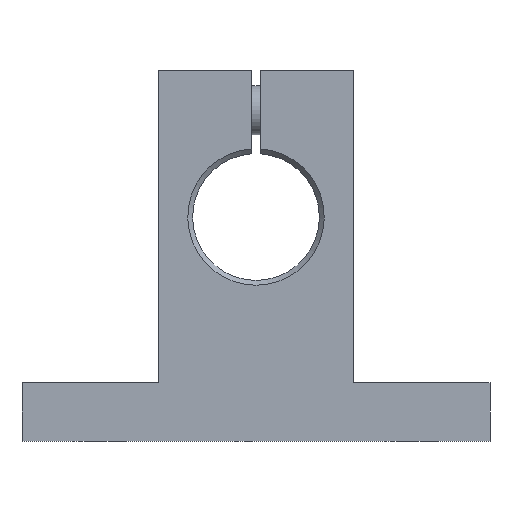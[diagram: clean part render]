
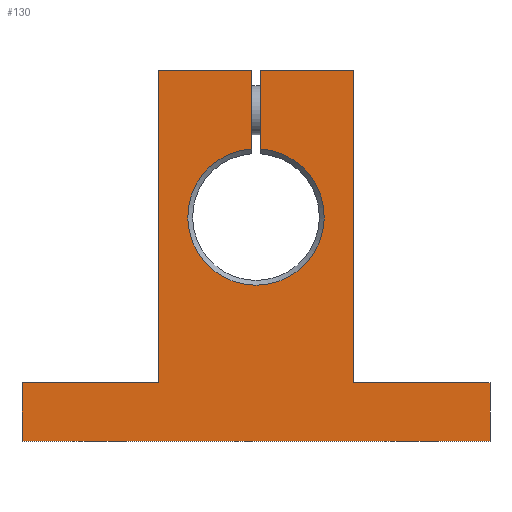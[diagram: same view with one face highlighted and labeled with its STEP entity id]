
A CAD part, front view. The second image highlights one B-rep face of the part: STEP entity #130.
In plain terms, the highlighted planar face has unit normal (0, -1, 0).
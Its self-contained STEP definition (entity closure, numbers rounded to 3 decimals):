
#130 = ADVANCED_FACE( '', ( #277 ), #278, .T. );
#277 = FACE_OUTER_BOUND( '', #421, .T. );
#278 = PLANE( '', #422 );
#421 = EDGE_LOOP( '', ( #707, #708, #709, #710, #711, #712, #713, #714, #715, #716, #717, #718 ) );
#422 = AXIS2_PLACEMENT_3D( '', #719, #720, #721 );
#707 = ORIENTED_EDGE( '', *, *, #774, .F. );
#708 = ORIENTED_EDGE( '', *, *, #799, .T. );
#709 = ORIENTED_EDGE( '', *, *, #855, .F. );
#710 = ORIENTED_EDGE( '', *, *, #805, .F. );
#711 = ORIENTED_EDGE( '', *, *, #758, .F. );
#712 = ORIENTED_EDGE( '', *, *, #782, .F. );
#713 = ORIENTED_EDGE( '', *, *, #831, .T. );
#714 = ORIENTED_EDGE( '', *, *, #793, .F. );
#715 = ORIENTED_EDGE( '', *, *, #847, .T. );
#716 = ORIENTED_EDGE( '', *, *, #747, .F. );
#717 = ORIENTED_EDGE( '', *, *, #818, .F. );
#718 = ORIENTED_EDGE( '', *, *, #841, .F. );
#719 = CARTESIAN_POINT( '', ( 0., -7., 0. ) );
#720 = DIRECTION( '', ( 0., -1., 0. ) );
#721 = DIRECTION( '', ( 1., 0., 0. ) );
#747 = EDGE_CURVE( '', #865, #866, #867, .T. );
#758 = EDGE_CURVE( '', #885, #886, #887, .T. );
#774 = EDGE_CURVE( '', #913, #915, #916, .T. );
#782 = EDGE_CURVE( '', #927, #885, #928, .T. );
#793 = EDGE_CURVE( '', #943, #944, #945, .T. );
#799 = EDGE_CURVE( '', #913, #952, #955, .F. );
#805 = EDGE_CURVE( '', #886, #962, #963, .T. );
#818 = EDGE_CURVE( '', #982, #865, #983, .T. );
#831 = EDGE_CURVE( '', #927, #944, #1001, .T. );
#841 = EDGE_CURVE( '', #915, #982, #1012, .T. );
#847 = EDGE_CURVE( '', #943, #866, #1019, .T. );
#855 = EDGE_CURVE( '', #962, #952, #1029, .T. );
#865 = VERTEX_POINT( '', #1039 );
#866 = VERTEX_POINT( '', #1040 );
#867 = LINE( '', #1041, #1042 );
#885 = VERTEX_POINT( '', #1067 );
#886 = VERTEX_POINT( '', #1068 );
#887 = LINE( '', #1069, #1070 );
#913 = VERTEX_POINT( '', #1104 );
#915 = VERTEX_POINT( '', #1109 );
#916 = LINE( '', #1110, #1111 );
#927 = VERTEX_POINT( '', #1126 );
#928 = LINE( '', #1127, #1128 );
#943 = VERTEX_POINT( '', #1145 );
#944 = VERTEX_POINT( '', #1146 );
#945 = LINE( '', #1147, #1148 );
#952 = VERTEX_POINT( '', #1158 );
#955 = CIRCLE( '', #1164, 7. );
#962 = VERTEX_POINT( '', #1172 );
#963 = LINE( '', #1173, #1174 );
#982 = VERTEX_POINT( '', #1201 );
#983 = LINE( '', #1202, #1203 );
#1001 = LINE( '', #1229, #1230 );
#1012 = LINE( '', #1244, #1245 );
#1019 = LINE( '', #1253, #1254 );
#1029 = LINE( '', #1266, #1267 );
#1039 = CARTESIAN_POINT( '', ( 10., -7., -17. ) );
#1040 = CARTESIAN_POINT( '', ( 24., -7., -17. ) );
#1041 = CARTESIAN_POINT( '', ( 21., -7., -17. ) );
#1042 = VECTOR( '', #1277, 1000. );
#1067 = CARTESIAN_POINT( '', ( -10., -7., -17. ) );
#1068 = CARTESIAN_POINT( '', ( -10., -7., 15. ) );
#1069 = CARTESIAN_POINT( '', ( -10., -7., 14.5 ) );
#1070 = VECTOR( '', #1288, 1000. );
#1104 = CARTESIAN_POINT( '', ( 0.42, -7., 6.987 ) );
#1109 = CARTESIAN_POINT( '', ( 0.42, -7., 15. ) );
#1110 = CARTESIAN_POINT( '', ( 0.42, -7., 14.5 ) );
#1111 = VECTOR( '', #1309, 1000. );
#1126 = CARTESIAN_POINT( '', ( -24., -7., -17. ) );
#1127 = CARTESIAN_POINT( '', ( -10., -7., -17. ) );
#1128 = VECTOR( '', #1317, 1000. );
#1145 = CARTESIAN_POINT( '', ( 24., -7., -23. ) );
#1146 = CARTESIAN_POINT( '', ( -24., -7., -23. ) );
#1147 = CARTESIAN_POINT( '', ( -21., -7., -23. ) );
#1148 = VECTOR( '', #1332, 1000. );
#1158 = CARTESIAN_POINT( '', ( -0.42, -7., 6.987 ) );
#1164 = AXIS2_PLACEMENT_3D( '', #1336, #1337, #1338 );
#1172 = CARTESIAN_POINT( '', ( -0.42, -7., 15. ) );
#1173 = CARTESIAN_POINT( '', ( -0.42, -7., 15. ) );
#1174 = VECTOR( '', #1346, 1000. );
#1201 = CARTESIAN_POINT( '', ( 10., -7., 15. ) );
#1202 = CARTESIAN_POINT( '', ( 10., -7., -17. ) );
#1203 = VECTOR( '', #1358, 1000. );
#1229 = CARTESIAN_POINT( '', ( -24., -7., -17. ) );
#1230 = VECTOR( '', #1370, 1000. );
#1244 = CARTESIAN_POINT( '', ( 10., -7., 15. ) );
#1245 = VECTOR( '', #1377, 1000. );
#1253 = CARTESIAN_POINT( '', ( 24., -7., -23. ) );
#1254 = VECTOR( '', #1382, 1000. );
#1266 = CARTESIAN_POINT( '', ( -0.42, -7., 6.486 ) );
#1267 = VECTOR( '', #1391, 1000. );
#1277 = DIRECTION( '', ( 1., 0., 0. ) );
#1288 = DIRECTION( '', ( 0., 0., 1. ) );
#1309 = DIRECTION( '', ( 0., 0., 1. ) );
#1317 = DIRECTION( '', ( 1., 0., 0. ) );
#1332 = DIRECTION( '', ( -1., 0., 0. ) );
#1336 = CARTESIAN_POINT( '', ( 0., -7., 0. ) );
#1337 = DIRECTION( '', ( 0., -1., 0. ) );
#1338 = DIRECTION( '', ( 0., 0., -1. ) );
#1346 = DIRECTION( '', ( 1., 0., 0. ) );
#1358 = DIRECTION( '', ( 0., 0., -1. ) );
#1370 = DIRECTION( '', ( 0., 0., -1. ) );
#1377 = DIRECTION( '', ( 1., 0., 0. ) );
#1382 = DIRECTION( '', ( 0., 0., 1. ) );
#1391 = DIRECTION( '', ( 0., 0., -1. ) );
